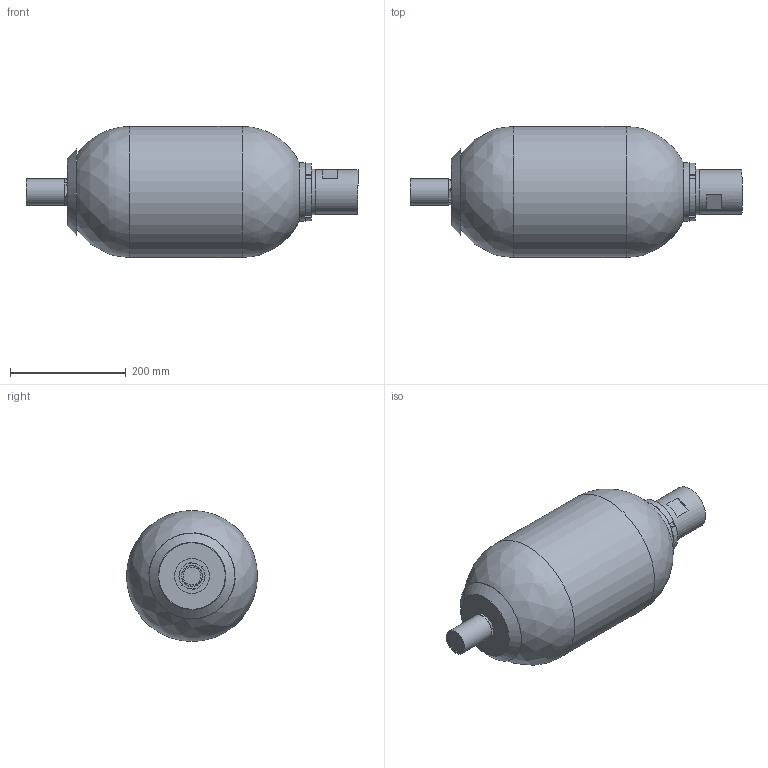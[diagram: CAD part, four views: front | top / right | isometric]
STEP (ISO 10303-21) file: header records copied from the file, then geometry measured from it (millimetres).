
FILE_DESCRIPTION(/* description */ (''),/* implementation_level */ '2;1');
FILE_NAME(/* name */ 'F:\STEP\ALLEGE\GAMME_EHV_STD_480bar\10949901125.stp',/* time_stamp */ '2014-04-15T10:34:03+02:00',/* author */ ('OB222728'),/* organization */ (''),/* preprocessor_version */ 'ST-DEVELOPER v15.2',/* originating_system */ 'Autodesk Inventor 2014',/* authorisation */ '');
FILE_SCHEMA (('AUTOMOTIVE_DESIGN { 1 0 10303 214 3 1 1 }'));
Length unit declared in the file: millimetre
Products named in the file (11): CA106524-00190; CB110082-02500; BE105544-00200; EC100990-00200; BC110298-02520OMAR; PF091202-05200; BP090944-00200 BOUCHON DE PROTECTION; BP090944-00200 BOUCHON PLASTIQUE; BP090944-00200; EC090943-01200; 10949901125
Bounding box: 573.2 x 226.2 x 226.2 mm (x, y, z)
Volume: 3921538.4 mm3; surface area: 700689.6 mm2
Topology: 8 solids, 8 shells, 138 faces, 311 edges, 197 vertices
Faces by surface type: plane 53, cylinder 40, cone 28, torus 12, bspline 3, sphere 2
Full cylindrical faces by diameter (mm): 12 x1, 15 x6, 18 x1, 20 x1, 20.68 x1, 22.52 x1, 31 x1, 34.5 x1, 36 x1, 36.5 x2, 38 x1, 45 x1, 54 x2, 56.656 x1, 60 x1, 76 x2, 76.835 x1, 79 x1, 80 x2, 88.4 x1, 88.9 x1, 88.95 x1, 101 x1, 202.4 x1, 226.2 x1
Entity records: 3733 total; most frequent: CARTESIAN_POINT 738, DIRECTION 648, ORIENTED_EDGE 440, AXIS2_PLACEMENT_3D 293, EDGE_LOOP 243, EDGE_CURVE 220, VERTEX_POINT 177, ADVANCED_FACE 138
